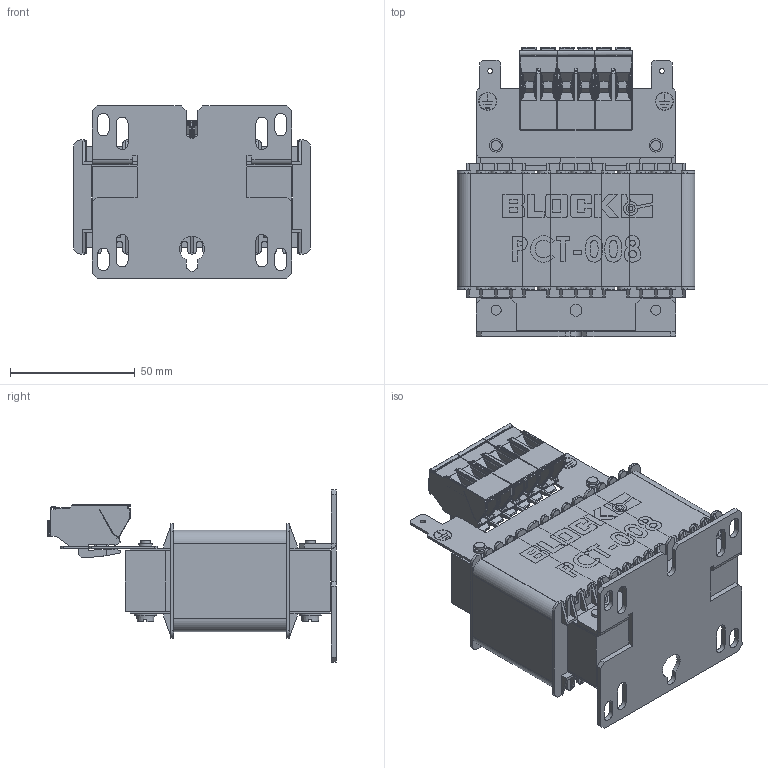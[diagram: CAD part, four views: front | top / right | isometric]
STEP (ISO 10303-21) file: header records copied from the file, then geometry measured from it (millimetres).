
FILE_DESCRIPTION (( 'STEP AP214' ), '1' );
FILE_NAME ('PCT-008.STEP', '2015-04-28T09:47:52', ( 'EDV' ), ( 'Microsoft' ), 'SwSTEP 2.0', 'SolidWorks 2014', '' );
FILE_SCHEMA (( 'AUTOMOTIVE_DESIGN' ));
Length unit declared in the file: millimetre
Products named in the file (11): slotted cheese head screw_din_ISO 1207 - M4 x 30 --- 30N; plain washer grade a_din_Washer DIN 125 - A 4.3; Wickelabdeckung LR3 40-3_8; Wickel UI 48-26; 3UI48-26_Luftspalt2mm; UI48-26oD; #144-0145; BTK 4_2 +2202-0006; #080-0485; #040-0871; PCT-008
Assembly tree (23 placements, depth 2):
  PCT-008
    #040-0871
    #080-0485
    BTK 4_2 +2202-0006  x3
    #144-0145  x2
    UI48-26oD  x3
    3UI48-26_Luftspalt2mm
    Wickel UI 48-26  x3
    Wickelabdeckung LR3 40-3_8
    plain washer grade a_din_Washer DIN 125 - A 4.3  x4
    slotted cheese head screw_din_ISO 1207 - M4 x 30 --- 30N  x4
Bounding box: 95.2 x 115.7 x 69 mm (x, y, z)
Volume: 271374.7 mm3; surface area: 181238.5 mm2
Topology: 25 solids, 25 shells, 6196 faces, 17342 edges, 11316 vertices
Faces by surface type: plane 5040, cylinder 811, bspline 290, torus 51, cone 4
Full cylindrical faces by diameter (mm): 2 x2, 3.473 x1, 3.7 x4, 4 x4, 4.3 x4, 4.5 x4, 4.8 x6, 5.4 x2, 6.95 x2, 7.15 x2, 9 x4
Entity records: 85210 total; most frequent: CARTESIAN_POINT 20162, ORIENTED_EDGE 13412, DIRECTION 11500, EDGE_CURVE 6706, VECTOR 5760, LINE 5760, VERTEX_POINT 4405, AXIS2_PLACEMENT_3D 2870
